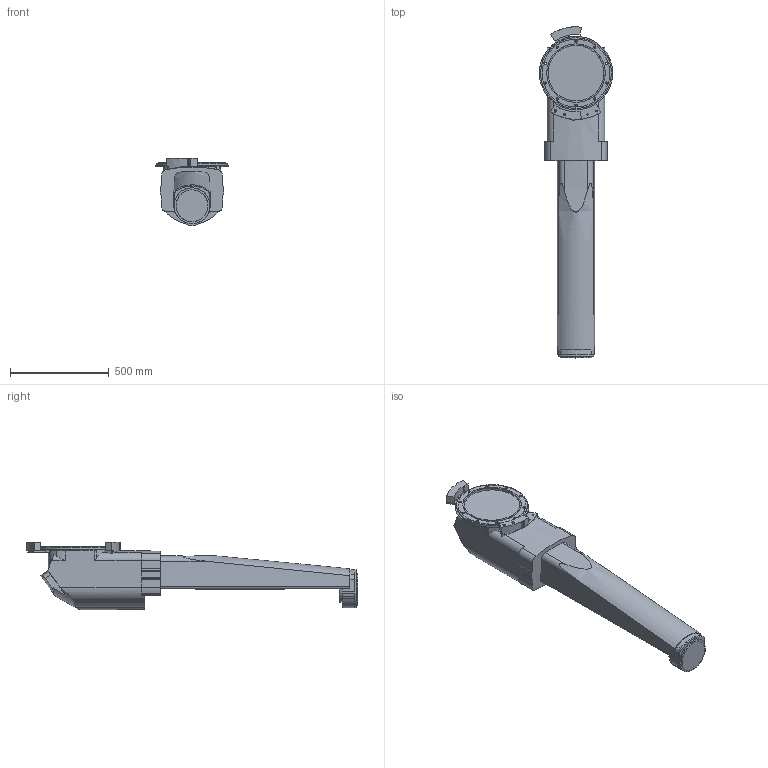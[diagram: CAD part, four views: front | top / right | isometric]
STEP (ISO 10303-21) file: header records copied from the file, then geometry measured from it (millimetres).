
FILE_DESCRIPTION (( 'STEP AP214' ), '1' );
FILE_NAME ('IRB5500_12_T00F71B41V31H51_rev1_4.step', '2006-09-01T12:42:35', ( 'Jonas Eriksson' ), ( '' ), 'SwSTEP 2.0', 'SolidWorks 2004334', '' );
FILE_SCHEMA (( 'AUTOMOTIVE_DESIGN' ));
Length unit declared in the file: millimetre
Products named in the file (1): IRB5500_12_T00F71B41V31H51_rev1_4
Bounding box: 369.97 x 1676.89 x 338.98 mm (x, y, z)
Volume: 68403964.5 mm3; surface area: 1514533.7 mm2
Topology: 1 solids, 11 shells, 302 faces, 807 edges, 542 vertices
Faces by surface type: cylinder 162, plane 119, bspline 21
Entity records: 25690 total; most frequent: CARTESIAN_POINT 15479, ORIENTED_EDGE 1614, DIRECTION 1097, EDGE_CURVE 807, VERTEX_POINT 542, LINE 369, VECTOR 369, AXIS2_PLACEMENT_3D 364
